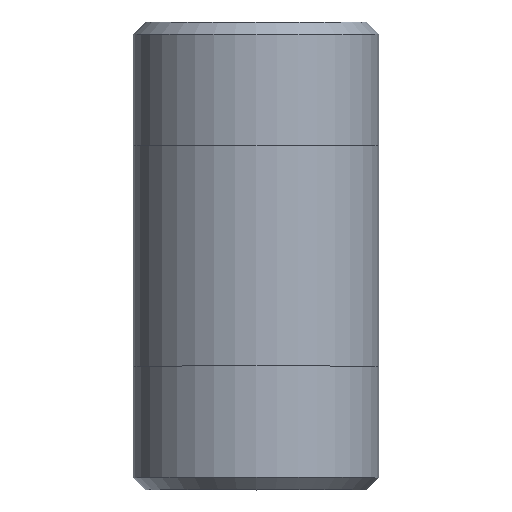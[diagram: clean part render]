
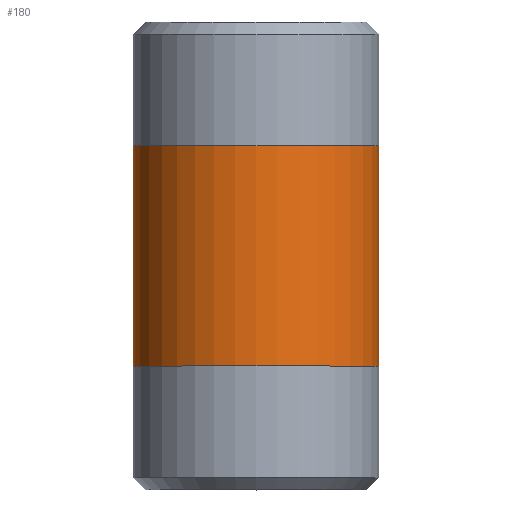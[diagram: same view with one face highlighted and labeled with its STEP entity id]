
A CAD part, top view. The second image highlights one B-rep face of the part: STEP entity #180.
In plain terms, the highlighted cylindrical face has radius 16.701 mm (diameter 33.401 mm), a full revolution.
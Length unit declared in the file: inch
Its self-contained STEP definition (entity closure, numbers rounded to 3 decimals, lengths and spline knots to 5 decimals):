
#25=CYLINDRICAL_SURFACE('',#220,0.6575);
#34=FACE_OUTER_BOUND('',#47,.T.);
#47=EDGE_LOOP('',(#155,#156,#157,#158,#159,#160));
#55=LINE('',#338,#61);
#61=VECTOR('',#283,0.6575);
#77=CIRCLE('',#218,0.6575);
#78=CIRCLE('',#219,0.6575);
#79=CIRCLE('',#221,0.6575);
#80=CIRCLE('',#222,0.6575);
#95=VERTEX_POINT('',#329);
#96=VERTEX_POINT('',#330);
#97=VERTEX_POINT('',#334);
#98=VERTEX_POINT('',#335);
#117=EDGE_CURVE('',#95,#96,#77,.T.);
#118=EDGE_CURVE('',#96,#95,#78,.T.);
#119=EDGE_CURVE('',#97,#98,#79,.T.);
#120=EDGE_CURVE('',#98,#97,#80,.T.);
#121=EDGE_CURVE('',#98,#96,#55,.T.);
#155=ORIENTED_EDGE('',*,*,#119,.F.);
#156=ORIENTED_EDGE('',*,*,#120,.F.);
#157=ORIENTED_EDGE('',*,*,#121,.T.);
#158=ORIENTED_EDGE('',*,*,#118,.T.);
#159=ORIENTED_EDGE('',*,*,#117,.T.);
#160=ORIENTED_EDGE('',*,*,#121,.F.);
#180=ADVANCED_FACE('',(#34),#25,.T.);
#218=AXIS2_PLACEMENT_3D('',#331,#273,#274);
#219=AXIS2_PLACEMENT_3D('',#332,#275,#276);
#220=AXIS2_PLACEMENT_3D('',#333,#277,#278);
#221=AXIS2_PLACEMENT_3D('',#336,#279,#280);
#222=AXIS2_PLACEMENT_3D('',#337,#281,#282);
#273=DIRECTION('center_axis',(0.,-1.,0.));
#274=DIRECTION('ref_axis',(1.,0.,0.));
#275=DIRECTION('center_axis',(0.,-1.,0.));
#276=DIRECTION('ref_axis',(1.,0.,0.));
#277=DIRECTION('center_axis',(0.,-1.,0.));
#278=DIRECTION('ref_axis',(0.,0.,-1.));
#279=DIRECTION('center_axis',(0.,-1.,0.));
#280=DIRECTION('ref_axis',(1.,0.,0.));
#281=DIRECTION('center_axis',(0.,-1.,0.));
#282=DIRECTION('ref_axis',(1.,0.,0.));
#283=DIRECTION('',(0.,1.,0.));
#329=CARTESIAN_POINT('',(0.,1.839,-0.6575));
#330=CARTESIAN_POINT('',(0.,1.839,0.6575));
#331=CARTESIAN_POINT('Origin',(0.,1.839,0.));
#332=CARTESIAN_POINT('Origin',(0.,1.839,0.));
#333=CARTESIAN_POINT('Origin',(0.,1.25,0.));
#334=CARTESIAN_POINT('',(0.,0.661,-0.6575));
#335=CARTESIAN_POINT('',(0.,0.661,0.6575));
#336=CARTESIAN_POINT('Origin',(0.,0.661,0.));
#337=CARTESIAN_POINT('Origin',(0.,0.661,0.));
#338=CARTESIAN_POINT('',(0.,1.25,0.6575));
